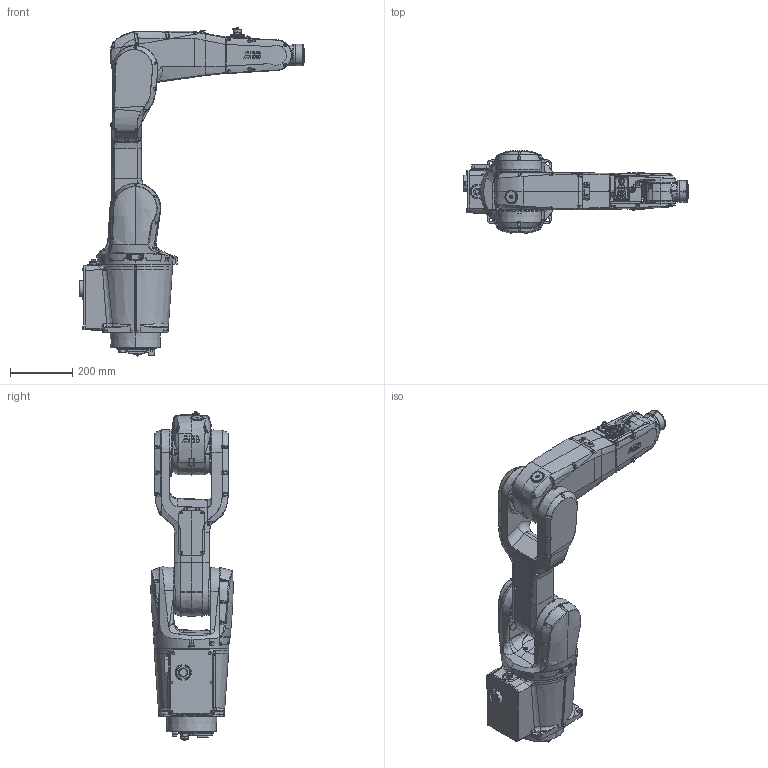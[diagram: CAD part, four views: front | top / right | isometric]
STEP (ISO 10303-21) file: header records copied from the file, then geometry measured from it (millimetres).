
FILE_DESCRIPTION (( 'STEP AP214' ), '1' );
FILE_NAME ('IRB1200H_5-90_IRC5__Bottom_rev0.step', '2022-01-17T08:43:28', ( '' ), ( '' ), 'SwSTEP 2.0', 'SolidWorks 2020', '' );
FILE_SCHEMA (( 'AUTOMOTIVE_DESIGN' ));
Length unit declared in the file: millimetre
Products named in the file (1): IRB1200H_5-90_IRC5__Bottom_rev0
Bounding box: 721 x 262.97 x 1053.05 mm (x, y, z)
Volume: 34437924.4 mm3; surface area: 1392072.9 mm2
Topology: 7 solids, 26 shells, 4317 faces, 10652 edges, 6509 vertices
Faces by surface type: bspline 1586, plane 1213, cylinder 950, cone 385, torus 157, sphere 26
Entity records: 334982 total; most frequent: CARTESIAN_POINT 199426, ORIENTED_EDGE 21106, DIRECTION 14521, EDGE_CURVE 10553, VERTEX_POINT 6508, AXIS2_PLACEMENT_3D 5751, EDGE_LOOP 4561, UNCERTAINTY_MEASURE_WITH_UNIT 4326
